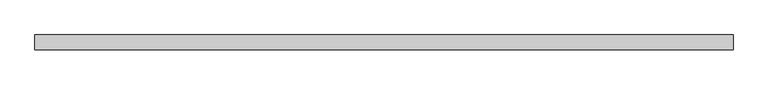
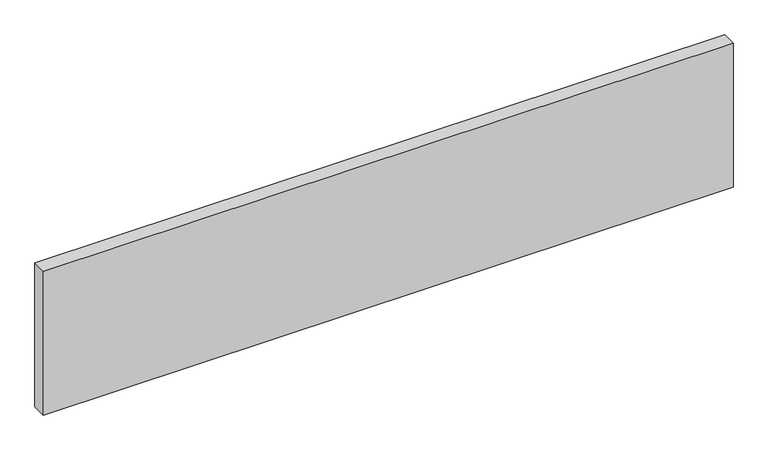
"""IFC4 building model written with IfcOpenShell, lengths in millimetres: plate geometry, Panneau système : Vitre 4cm."""

from ifc_helpers import new_model, si_unit, origin, origin_with_axes, place, context, project, spatial, polyline, outline, extrude, source, transform, mapped, element, save


def plate_3abdb1a7(model_context):
    return source(origin(), model_context, "Body", "SweptSolid", [
        extrude(outline(polyline([(952.0, -20.0), (-952.0, -20.0), (-952.0, 20.0), (952.0, 20.0), (952.0, -20.0)])), origin_with_axes(), (0.0, 0.0, 1.0), 420.0),
    ])


if __name__ == "__main__":
    model = new_model("IFC4")
    model_context = context("Model", 3, world=origin())
    ifc_project = project(units=[si_unit("LENGTHUNIT", "METRE", prefix="MILLI")], contexts=[model_context])
    site = spatial("IfcSite", under=ifc_project)
    building = spatial("IfcBuilding", under=site)
    placement = place(None, origin())
    plate_shape = plate_3abdb1a7(model_context)
    element("IfcPlate", 1, ObjectType="Panneau système : Vitre 4cm", at=placement, inside=building, context=model_context, shape_type="MappedRepresentation", body=[
        mapped(plate_shape, transform((0.0, 0.0, 0.0), x_axis=(1.0, 0.0, 0.0), y_axis=(0.0, 1.0, 0.0), z_axis=(0.0, 0.0, 1.0))),
    ])
    save(model, "model.ifc")
